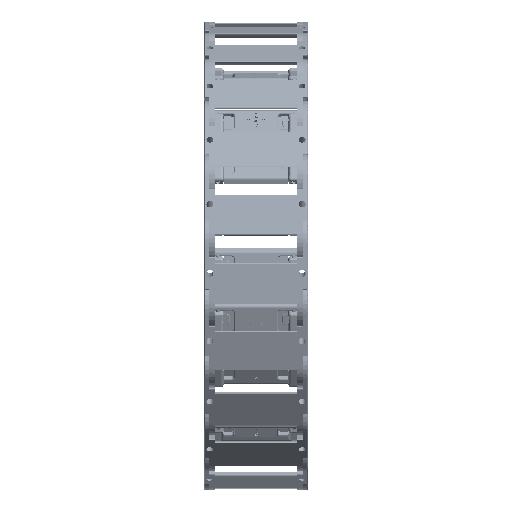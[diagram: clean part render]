
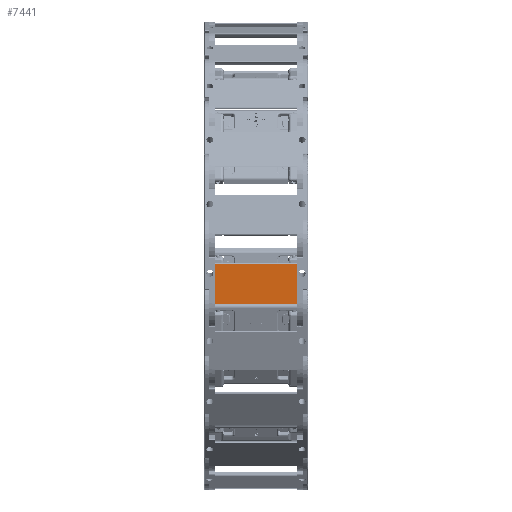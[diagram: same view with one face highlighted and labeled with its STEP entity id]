
A CAD part, front view. The second image highlights one B-rep face of the part: STEP entity #7441.
In plain terms, the highlighted planar face has unit normal (0, -0.998, -0.065) as drawn and (0.132, 0, 0.991) by its records, which use the part's own axes.
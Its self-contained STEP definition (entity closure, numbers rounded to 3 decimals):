
#292=CARTESIAN_POINT('',(47.817,8.875,146.031));
#293=VERTEX_POINT('',#292);
#310=CARTESIAN_POINT('',(76.561,8.875,142.19));
#311=VERTEX_POINT('',#310);
#319=CARTESIAN_POINT('',(47.817,8.875,146.031));
#320=DIRECTION('',(0.991,0.,-0.132));
#321=VECTOR('',#320,29.);
#322=LINE('',#319,#321);
#323=EDGE_CURVE('',#293,#311,#322,.T.);
#7292=CARTESIAN_POINT('',(76.561,67.875,142.19));
#7293=VERTEX_POINT('',#7292);
#7301=CARTESIAN_POINT('',(76.561,67.875,142.19));
#7302=DIRECTION('',(0.0,-1.0,0.0));
#7303=VECTOR('',#7302,59.);
#7304=LINE('',#7301,#7303);
#7305=EDGE_CURVE('',#7293,#311,#7304,.T.);
#7418=CARTESIAN_POINT('',(77.58,20.375,142.054));
#7419=DIRECTION('',(0.132,0.,0.991));
#7420=DIRECTION('',(0.0,1.0,0.0));
#7421=AXIS2_PLACEMENT_3D('',#7418,#7419,#7420);
#7422=PLANE('',#7421);
#7423=ORIENTED_EDGE('',*,*,#7305,.F.);
#7424=CARTESIAN_POINT('',(47.817,67.875,146.031));
#7425=VERTEX_POINT('',#7424);
#7426=CARTESIAN_POINT('',(47.817,67.875,146.031));
#7427=DIRECTION('',(0.991,0.,-0.132));
#7428=VECTOR('',#7427,29.);
#7429=LINE('',#7426,#7428);
#7430=EDGE_CURVE('',#7425,#7293,#7429,.T.);
#7431=ORIENTED_EDGE('',*,*,#7430,.F.);
#7432=CARTESIAN_POINT('',(47.817,8.875,146.031));
#7433=DIRECTION('',(0.0,1.0,0.0));
#7434=VECTOR('',#7433,59.);
#7435=LINE('',#7432,#7434);
#7436=EDGE_CURVE('',#293,#7425,#7435,.T.);
#7437=ORIENTED_EDGE('',*,*,#7436,.F.);
#7438=ORIENTED_EDGE('',*,*,#323,.T.);
#7439=EDGE_LOOP('',(#7423,#7431,#7437,#7438));
#7440=FACE_OUTER_BOUND('',#7439,.T.);
#7441=ADVANCED_FACE('',(#7440),#7422,.T.);
